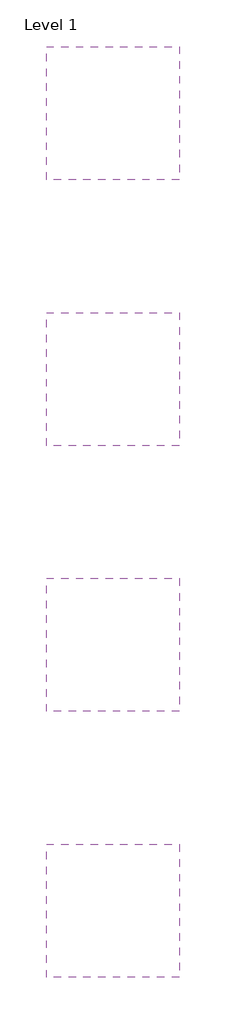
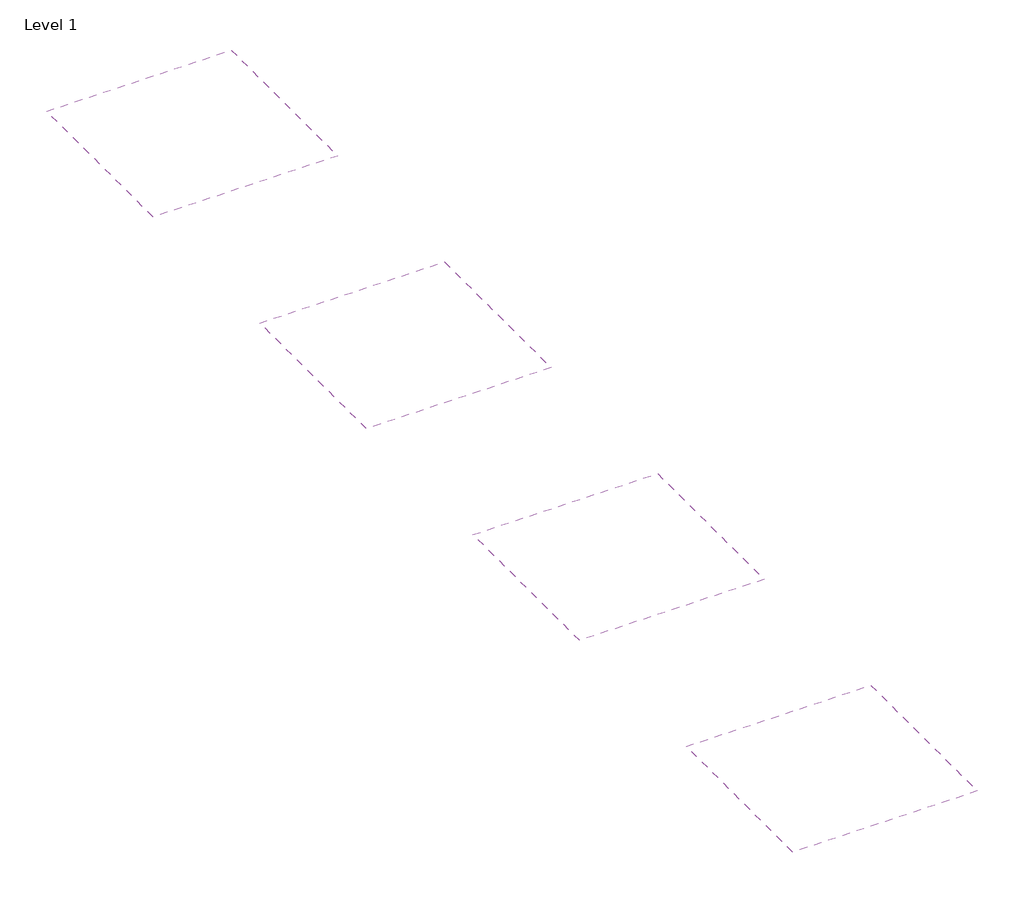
# One storey: 4 coverings.
"""IFC4 building model written with IfcOpenShell, lengths in millimetres."""

from ifc_helpers import new_model, si_unit, frame, origin, place, context, project, spatial, polyline, outline, extrude, element, save

model = new_model("IFC4")

# Units and contexts
model_context = context("Model", 3, world=origin())
ifc_project = project(units=[si_unit("LENGTHUNIT", "METRE", prefix="MILLI")], contexts=[model_context])

# Site, building, storey
site = spatial("IfcSite", under=ifc_project)
building = spatial("IfcBuilding", under=site)
storey = spatial("IfcBuildingStorey", under=building, Name="Level 1", Elevation=0.0)

# Coverings
placement = place(None, origin())
element("IfcCovering", 1, ObjectType="NBS_ArmstrongCeilingsLtd_UnitModularSuspendedCeilingSystem_SaharaMicroLook-Prelude15Exposed_600x600x15mm_GB", at=placement, inside=storey, context=model_context, shape_type="SweptSolid", body=[
    extrude(outline(polyline([(2500.0, 17500.0), (2500.0, 15000.0), (0.0, 15000.0), (0.0, 17500.0), (2500.0, 17500.0)])), frame((0.0, 0.0, 2600.0), z_axis=(0.0, 0.0, 1.0), x_axis=(1.0, 0.0, 0.0)), (0.0, 0.0, 1.0), 51.0),
])
element("IfcCovering", 2, ObjectType="NBS_ArmstrongCeilingsLtd_UnitModularSuspendedCeilingSystem_SaharaMicroLook-Prelude15Exposed_625x625x15mm_DE", at=placement, inside=storey, context=model_context, shape_type="SweptSolid", body=[
    extrude(outline(polyline([(2500.0, 12500.0), (2500.0, 10000.0), (0.0, 10000.0), (0.0, 12500.0), (2500.0, 12500.0)])), frame((0.0, 0.0, 2600.0), z_axis=(0.0, 0.0, 1.0), x_axis=(1.0, 0.0, 0.0)), (0.0, 0.0, 1.0), 51.0),
])
element("IfcCovering", 3, ObjectType="NBS_ArmstrongCeilingsLtd_UnitModularSuspendedCeilingSystem_SaharaMicroLook-Prelude15Exposed_1200x300x15mm_GB", at=placement, inside=storey, context=model_context, shape_type="SweptSolid", body=[
    extrude(outline(polyline([(2500.0, 7500.0), (2500.0, 5000.0), (0.0, 5000.0), (0.0, 7500.0), (2500.0, 7500.0)])), frame((0.0, 0.0, 2600.0), z_axis=(0.0, 0.0, 1.0), x_axis=(1.0, 0.0, 0.0)), (0.0, 0.0, 1.0), 51.0),
])
element("IfcCovering", 4, ObjectType="NBS_ArmstrongCeilingsLtd_UnitModularSuspendedCeilingSystem_SaharaMicroLook-Prelude15Exposed_1200x600x15mm_GB", at=placement, inside=storey, context=model_context, shape_type="SweptSolid", body=[
    extrude(outline(polyline([(2500.0, 2500.0), (2500.0, 0.0), (0.0, 0.0), (0.0, 2500.0), (2500.0, 2500.0)])), frame((0.0, 0.0, 2600.0), z_axis=(0.0, 0.0, 1.0), x_axis=(1.0, 0.0, 0.0)), (0.0, 0.0, 1.0), 51.0),
])

save(model, "model.ifc")
